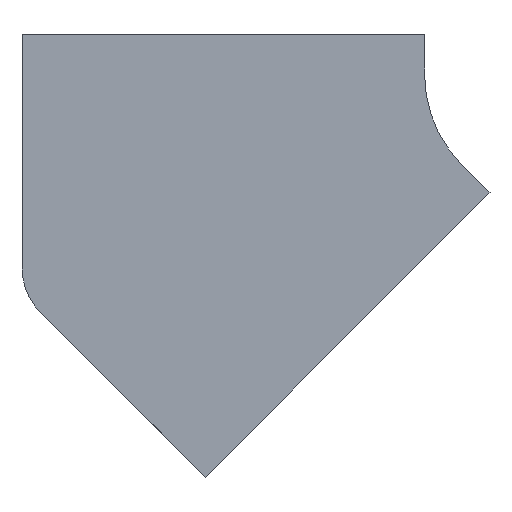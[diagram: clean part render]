
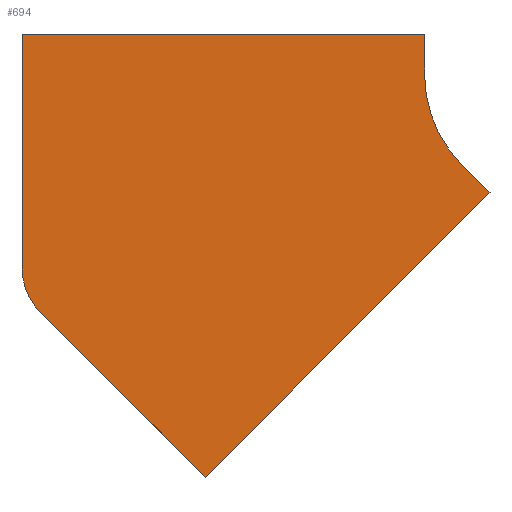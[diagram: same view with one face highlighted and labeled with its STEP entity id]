
A CAD part, front view. The second image highlights one B-rep face of the part: STEP entity #694.
In plain terms, the highlighted planar face has unit normal (0, -1, 0).
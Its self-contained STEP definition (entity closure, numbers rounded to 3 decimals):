
#8 = DIRECTION ( 'NONE',  ( 0., 0., 1. ) ) ;
#20 = AXIS2_PLACEMENT_3D ( 'NONE', #706, #688, #39 ) ;
#24 = CARTESIAN_POINT ( 'NONE',  ( -525., 0., 40. ) ) ;
#39 = DIRECTION ( 'NONE',  ( 0., 0., -1. ) ) ;
#91 = CARTESIAN_POINT ( 'NONE',  ( -342.947, 0., -399.515 ) ) ;
#110 = CARTESIAN_POINT ( 'NONE',  ( -525., 0., -191.574 ) ) ;
#118 = CARTESIAN_POINT ( 'NONE',  ( -506.694, 0., -235.768 ) ) ;
#142 = EDGE_LOOP ( 'NONE', ( #752, #1328, #1592, #1155, #397, #1110, #1506, #906 ) ) ;
#193 = EDGE_CURVE ( 'NONE', #1558, #1671, #1445, .T. ) ;
#194 = LINE ( 'NONE', #340, #878 ) ;
#224 = LINE ( 'NONE', #1258, #1265 ) ;
#263 = EDGE_CURVE ( 'NONE', #1671, #1288, #1613, .T. ) ;
#268 = DIRECTION ( 'NONE',  ( 0., -1., 0. ) ) ;
#292 = EDGE_CURVE ( 'NONE', #1493, #1558, #194, .T. ) ;
#318 = PLANE ( 'NONE',  #20 ) ;
#329 = AXIS2_PLACEMENT_3D ( 'NONE', #395, #1556, #8 ) ;
#340 = CARTESIAN_POINT ( 'NONE',  ( -525., 0., 40. ) ) ;
#388 = AXIS2_PLACEMENT_3D ( 'NONE', #1081, #268, #1309 ) ;
#395 = CARTESIAN_POINT ( 'NONE',  ( -462.5, 0., -191.574 ) ) ;
#397 = ORIENTED_EDGE ( 'NONE', *, *, #628, .F. ) ;
#448 = VERTEX_POINT ( 'NONE', #1154 ) ;
#469 = CARTESIAN_POINT ( 'NONE',  ( -88.388, 0., -88.388 ) ) ;
#472 = DIRECTION ( 'NONE',  ( -0.707, 0., 0.707 ) ) ;
#484 = VERTEX_POINT ( 'NONE', #110 ) ;
#504 = DIRECTION ( 'NONE',  ( 0., 0., 1. ) ) ;
#593 = VERTEX_POINT ( 'NONE', #118 ) ;
#595 = EDGE_CURVE ( 'NONE', #484, #1493, #633, .T. ) ;
#628 = EDGE_CURVE ( 'NONE', #448, #1361, #1223, .T. ) ;
#633 = LINE ( 'NONE', #1673, #663 ) ;
#645 = DIRECTION ( 'NONE',  ( 0.707, 0., -0.707 ) ) ;
#663 = VECTOR ( 'NONE', #504, 1000. ) ;
#677 = CARTESIAN_POINT ( 'NONE',  ( -125., 0., 0. ) ) ;
#688 = DIRECTION ( 'NONE',  ( 0., -1., 0. ) ) ;
#694 = ADVANCED_FACE ( 'NONE', ( #1206 ), #318, .T. ) ;
#698 = DIRECTION ( 'NONE',  ( -0.707, 0., -0.707 ) ) ;
#706 = CARTESIAN_POINT ( 'NONE',  ( 0., 0., 0. ) ) ;
#752 = ORIENTED_EDGE ( 'NONE', *, *, #292, .F. ) ;
#838 = CIRCLE ( 'NONE', #329, 62.5 ) ;
#858 = DIRECTION ( 'NONE',  ( 1., 0., 0. ) ) ;
#878 = VECTOR ( 'NONE', #858, 1000. ) ;
#906 = ORIENTED_EDGE ( 'NONE', *, *, #193, .F. ) ;
#907 = VECTOR ( 'NONE', #472, 1000. ) ;
#942 = DIRECTION ( 'NONE',  ( 0., 0., -1. ) ) ;
#983 = EDGE_CURVE ( 'NONE', #1288, #448, #224, .T. ) ;
#1020 = EDGE_CURVE ( 'NONE', #1361, #593, #1521, .T. ) ;
#1081 = CARTESIAN_POINT ( 'NONE',  ( 0., 0., 0. ) ) ;
#1110 = ORIENTED_EDGE ( 'NONE', *, *, #983, .F. ) ;
#1123 = CARTESIAN_POINT ( 'NONE',  ( -342.947, 0., -399.515 ) ) ;
#1154 = CARTESIAN_POINT ( 'NONE',  ( -60.104, 0., -116.673 ) ) ;
#1155 = ORIENTED_EDGE ( 'NONE', *, *, #1020, .F. ) ;
#1199 = CARTESIAN_POINT ( 'NONE',  ( -125., 0., 40. ) ) ;
#1206 = FACE_OUTER_BOUND ( 'NONE', #142, .T. ) ;
#1218 = CARTESIAN_POINT ( 'NONE',  ( -125., 0., 40. ) ) ;
#1223 = LINE ( 'NONE', #1490, #1432 ) ;
#1258 = CARTESIAN_POINT ( 'NONE',  ( -88.388, 0., -88.388 ) ) ;
#1265 = VECTOR ( 'NONE', #645, 1000. ) ;
#1288 = VERTEX_POINT ( 'NONE', #469 ) ;
#1309 = DIRECTION ( 'NONE',  ( 0., 0., -1. ) ) ;
#1328 = ORIENTED_EDGE ( 'NONE', *, *, #595, .F. ) ;
#1361 = VERTEX_POINT ( 'NONE', #91 ) ;
#1432 = VECTOR ( 'NONE', #698, 1000. ) ;
#1440 = EDGE_CURVE ( 'NONE', #593, #484, #838, .T. ) ;
#1445 = LINE ( 'NONE', #1199, #1590 ) ;
#1490 = CARTESIAN_POINT ( 'NONE',  ( -60.104, 0., -116.673 ) ) ;
#1493 = VERTEX_POINT ( 'NONE', #24 ) ;
#1506 = ORIENTED_EDGE ( 'NONE', *, *, #263, .F. ) ;
#1521 = LINE ( 'NONE', #1123, #907 ) ;
#1556 = DIRECTION ( 'NONE',  ( 0., 1., 0. ) ) ;
#1558 = VERTEX_POINT ( 'NONE', #1218 ) ;
#1590 = VECTOR ( 'NONE', #942, 1000. ) ;
#1592 = ORIENTED_EDGE ( 'NONE', *, *, #1440, .F. ) ;
#1613 = CIRCLE ( 'NONE', #388, 125. ) ;
#1671 = VERTEX_POINT ( 'NONE', #677 ) ;
#1673 = CARTESIAN_POINT ( 'NONE',  ( -525., 0., -191.574 ) ) ;
